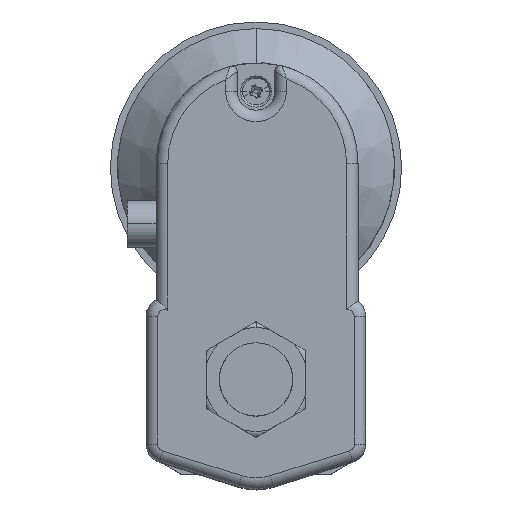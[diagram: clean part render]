
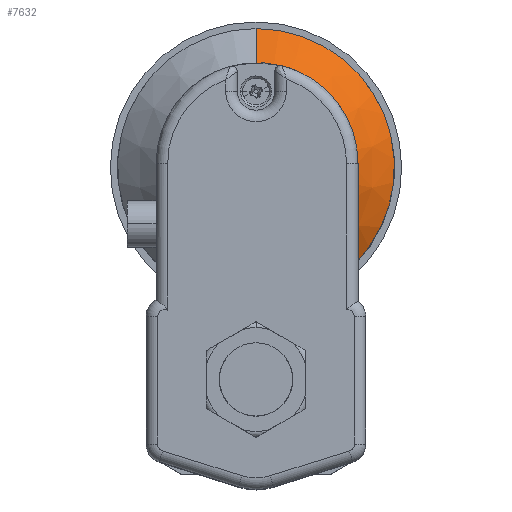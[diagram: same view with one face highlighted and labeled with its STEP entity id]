
A CAD part, top view. The second image highlights one B-rep face of the part: STEP entity #7632.
In plain terms, the highlighted conical face has half-angle 45 degrees and reference radius 48 mm.
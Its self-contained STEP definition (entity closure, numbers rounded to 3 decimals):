
#233 = DIRECTION ( 'NONE',  ( 0., 1., 0. ) ) ;
#234 = DIRECTION ( 'NONE',  ( 0., 0., -1. ) ) ;
#235 = CARTESIAN_POINT ( 'NONE',  ( 0., 73.9, 53.5 ) ) ;
#3045 = EDGE_CURVE ( 'NONE', #3628, #3414, #5189, .T. ) ;
#3081 = EDGE_CURVE ( 'NONE', #3401, #3414, #5243, .T. ) ;
#3092 = EDGE_CURVE ( 'NONE', #3413, #7241, #5240, .T. ) ;
#3093 = EDGE_CURVE ( 'NONE', #3413, #3628, #5262, .T. ) ;
#3197 = EDGE_CURVE ( 'NONE', #7241, #3401, #7411, .T. ) ;
#3384 = DIRECTION ( 'NONE',  ( 0., 0.707, -0.707 ) ) ;
#3401 = VERTEX_POINT ( 'NONE', #3826 ) ;
#3413 = VERTEX_POINT ( 'NONE', #3833 ) ;
#3414 = VERTEX_POINT ( 'NONE', #4114 ) ;
#3453 = CARTESIAN_POINT ( 'NONE',  ( 0., 121.9, 53.5 ) ) ;
#3628 = VERTEX_POINT ( 'NONE', #4040 ) ;
#3644 = CARTESIAN_POINT ( 'NONE',  ( 0., 33.529, 61.129 ) ) ;
#3826 = CARTESIAN_POINT ( 'NONE',  ( 27.908, 34.847, 53.5 ) ) ;
#3833 = CARTESIAN_POINT ( 'NONE',  ( 0., 39.9, 67.5 ) ) ;
#4001 = CARTESIAN_POINT ( 'NONE',  ( 2.446, 33.529, 61.129 ) ) ;
#4040 = CARTESIAN_POINT ( 'NONE',  ( 0., 107.9, 67.5 ) ) ;
#4051 = CARTESIAN_POINT ( 'NONE',  ( 25.743, 34.688, 54.63 ) ) ;
#4052 = CARTESIAN_POINT ( 'NONE',  ( 27.908, 34.847, 53.5 ) ) ;
#4058 = CARTESIAN_POINT ( 'NONE',  ( 4.88, 33.569, 60.945 ) ) ;
#4059 = CARTESIAN_POINT ( 'NONE',  ( 8.513, 33.679, 60.406 ) ) ;
#4060 = CARTESIAN_POINT ( 'NONE',  ( 9.724, 33.725, 60.181 ) ) ;
#4061 = CARTESIAN_POINT ( 'NONE',  ( 12.111, 33.829, 59.655 ) ) ;
#4062 = CARTESIAN_POINT ( 'NONE',  ( 13.29, 33.888, 59.353 ) ) ;
#4063 = CARTESIAN_POINT ( 'NONE',  ( 16.788, 34.077, 58.341 ) ) ;
#4064 = CARTESIAN_POINT ( 'NONE',  ( 19.068, 34.223, 57.527 ) ) ;
#4065 = CARTESIAN_POINT ( 'NONE',  ( 23.545, 34.528, 55.671 ) ) ;
#4114 = CARTESIAN_POINT ( 'NONE',  ( 0., 121.9, 53.5 ) ) ;
#4479 = EDGE_LOOP ( 'NONE', ( #6807, #6777, #6717, #6718, #6719 ) ) ;
#5176 = VECTOR ( 'NONE', #3384, 1000. ) ;
#5189 = LINE ( 'NONE', #3453, #5176 ) ;
#5240 = LINE ( 'NONE', #7924, #5247 ) ;
#5243 = CIRCLE ( 'NONE', #8595, 48. ) ;
#5247 = VECTOR ( 'NONE', #8079, 1000. ) ;
#5262 = CIRCLE ( 'NONE', #8599, 34. ) ;
#6717 = ORIENTED_EDGE ( 'NONE', *, *, #3197, .T. ) ;
#6718 = ORIENTED_EDGE ( 'NONE', *, *, #3081, .T. ) ;
#6719 = ORIENTED_EDGE ( 'NONE', *, *, #3045, .F. ) ;
#6777 = ORIENTED_EDGE ( 'NONE', *, *, #3092, .T. ) ;
#6807 = ORIENTED_EDGE ( 'NONE', *, *, #3093, .F. ) ;
#7241 = VERTEX_POINT ( 'NONE', #10043 ) ;
#7411 = B_SPLINE_CURVE_WITH_KNOTS ( 'NONE', 3,
 ( #3644, #4001, #4058, #4059, #4060, #4061, #4062, #4063, #4064, #4065, #4051, #4052 ),
 .UNSPECIFIED., .F., .F.,
 ( 4, 2, 2, 2, 2, 4 ),
 ( 0.029, 0.037, 0.04, 0.044, 0.051, 0.059 ),
 .UNSPECIFIED. ) ;
#7632 = ADVANCED_FACE ( 'NONE', ( #11221 ), #11222, .T. ) ;
#7919 = DIRECTION ( 'NONE',  ( 0., -1., 0. ) ) ;
#7924 = CARTESIAN_POINT ( 'NONE',  ( 0., 25.9, 53.5 ) ) ;
#7956 = DIRECTION ( 'NONE',  ( 0., 0., 1. ) ) ;
#7985 = DIRECTION ( 'NONE',  ( 0., -1., 0. ) ) ;
#8000 = CARTESIAN_POINT ( 'NONE',  ( 0., 73.9, 53.5 ) ) ;
#8079 = DIRECTION ( 'NONE',  ( 0., -0.707, -0.707 ) ) ;
#8082 = CARTESIAN_POINT ( 'NONE',  ( 0., 73.9, 67.5 ) ) ;
#8103 = DIRECTION ( 'NONE',  ( 0., 0., 1. ) ) ;
#8595 = AXIS2_PLACEMENT_3D ( 'NONE', #8000, #8103, #7985 ) ;
#8599 = AXIS2_PLACEMENT_3D ( 'NONE', #8082, #7956, #7919 ) ;
#8970 = AXIS2_PLACEMENT_3D ( 'NONE', #235, #234, #233 ) ;
#10043 = CARTESIAN_POINT ( 'NONE',  ( 0., 33.529, 61.129 ) ) ;
#11221 = FACE_OUTER_BOUND ( 'NONE', #4479, .T. ) ;
#11222 = CONICAL_SURFACE ( 'NONE', #8970, 48., 0.785 ) ;
